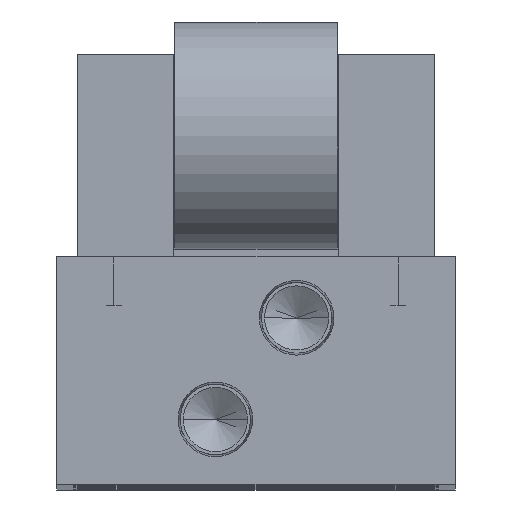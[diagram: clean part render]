
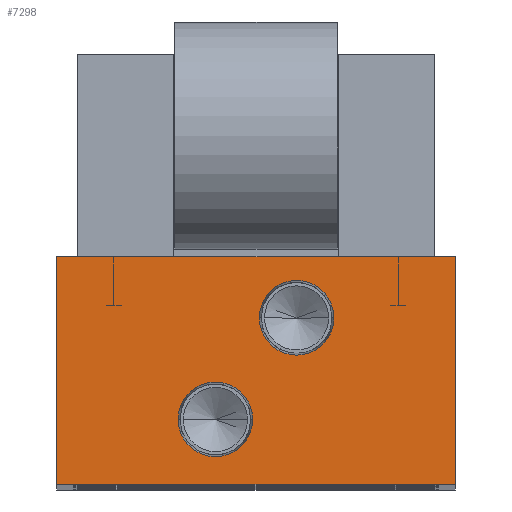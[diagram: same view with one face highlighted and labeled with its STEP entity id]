
A CAD part, top view. The second image highlights one B-rep face of the part: STEP entity #7298.
In plain terms, the highlighted planar face has unit normal (0, 0, 1).
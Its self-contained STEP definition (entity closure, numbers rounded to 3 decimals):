
#68 = CARTESIAN_POINT ( 'NONE',  ( 0.408, 20.5, 0. ) ) ;
#159 = CARTESIAN_POINT ( 'NONE',  ( -5., 8., 0. ) ) ;
#437 = EDGE_CURVE ( 'NONE', #8749, #8597, #5724, .T. ) ;
#479 = FACE_OUTER_BOUND ( 'NONE', #6086, .T. ) ;
#560 = VECTOR ( 'NONE', #4911, 1000. ) ;
#580 = CARTESIAN_POINT ( 'NONE',  ( 9.592, 20.5, 0. ) ) ;
#1047 = DIRECTION ( 'NONE',  ( 1., 0., 0. ) ) ;
#1211 = EDGE_CURVE ( 'NONE', #12919, #5067, #6840, .T. ) ;
#1378 = DIRECTION ( 'NONE',  ( 1., 0., 0. ) ) ;
#1502 = CARTESIAN_POINT ( 'NONE',  ( -24.5, 28., 0. ) ) ;
#1533 = LINE ( 'NONE', #8842, #4727 ) ;
#1572 = ORIENTED_EDGE ( 'NONE', *, *, #8475, .F. ) ;
#1715 = CARTESIAN_POINT ( 'NONE',  ( -24.5, 0., 0. ) ) ;
#2264 = DIRECTION ( 'NONE',  ( 0., 0., 1. ) ) ;
#2648 = AXIS2_PLACEMENT_3D ( 'NONE', #11758, #4476, #12985 ) ;
#2732 = EDGE_CURVE ( 'NONE', #10744, #3926, #5365, .T. ) ;
#3021 = CARTESIAN_POINT ( 'NONE',  ( 5., 20.5, 0. ) ) ;
#3442 = CIRCLE ( 'NONE', #9294, 4.592 ) ;
#3916 = LINE ( 'NONE', #1502, #6739 ) ;
#3926 = VERTEX_POINT ( 'NONE', #5896 ) ;
#4032 = CARTESIAN_POINT ( 'NONE',  ( 24.5, 28., 0. ) ) ;
#4091 = FACE_BOUND ( 'NONE', #11175, .T. ) ;
#4220 = DIRECTION ( 'NONE',  ( 1., 0., 0. ) ) ;
#4476 = DIRECTION ( 'NONE',  ( 0., 0., 1. ) ) ;
#4727 = VECTOR ( 'NONE', #14855, 1000. ) ;
#4911 = DIRECTION ( 'NONE',  ( -1., 0., 0. ) ) ;
#5067 = VERTEX_POINT ( 'NONE', #580 ) ;
#5365 = CIRCLE ( 'NONE', #8137, 4.592 ) ;
#5724 = LINE ( 'NONE', #4032, #8635 ) ;
#5896 = CARTESIAN_POINT ( 'NONE',  ( -9.592, 8., 0. ) ) ;
#5918 = ORIENTED_EDGE ( 'NONE', *, *, #2732, .F. ) ;
#5938 = ORIENTED_EDGE ( 'NONE', *, *, #6621, .T. ) ;
#6086 = EDGE_LOOP ( 'NONE', ( #5938, #11292, #10913, #6401 ) ) ;
#6349 = DIRECTION ( 'NONE',  ( 0., -1., 0. ) ) ;
#6401 = ORIENTED_EDGE ( 'NONE', *, *, #14349, .T. ) ;
#6512 = CARTESIAN_POINT ( 'NONE',  ( -0.408, 8., 0. ) ) ;
#6621 = EDGE_CURVE ( 'NONE', #11705, #10788, #3916, .T. ) ;
#6739 = VECTOR ( 'NONE', #6349, 1000. ) ;
#6840 = CIRCLE ( 'NONE', #2648, 4.592 ) ;
#6913 = FACE_BOUND ( 'NONE', #11808, .T. ) ;
#7072 = CARTESIAN_POINT ( 'NONE',  ( 0., 0., 0. ) ) ;
#7298 = ADVANCED_FACE ( 'NONE', ( #6913, #4091, #479 ), #8318, .T. ) ;
#7627 = CARTESIAN_POINT ( 'NONE',  ( 24.5, 28., 0. ) ) ;
#8137 = AXIS2_PLACEMENT_3D ( 'NONE', #9539, #2264, #10741 ) ;
#8318 = PLANE ( 'NONE',  #10776 ) ;
#8475 = EDGE_CURVE ( 'NONE', #3926, #10744, #3442, .T. ) ;
#8597 = VERTEX_POINT ( 'NONE', #7627 ) ;
#8635 = VECTOR ( 'NONE', #11316, 1000. ) ;
#8660 = DIRECTION ( 'NONE',  ( 0., 0., 1. ) ) ;
#8749 = VERTEX_POINT ( 'NONE', #11499 ) ;
#8842 = CARTESIAN_POINT ( 'NONE',  ( -24.5, 0., 0. ) ) ;
#9294 = AXIS2_PLACEMENT_3D ( 'NONE', #159, #8660, #1378 ) ;
#9405 = AXIS2_PLACEMENT_3D ( 'NONE', #3021, #11505, #4220 ) ;
#9408 = CARTESIAN_POINT ( 'NONE',  ( -24.5, 28., 0. ) ) ;
#9539 = CARTESIAN_POINT ( 'NONE',  ( -5., 8., 0. ) ) ;
#9843 = ORIENTED_EDGE ( 'NONE', *, *, #13211, .F. ) ;
#10269 = LINE ( 'NONE', #10976, #560 ) ;
#10684 = EDGE_CURVE ( 'NONE', #10788, #8749, #1533, .T. ) ;
#10704 = DIRECTION ( 'NONE',  ( 0., 0., 1. ) ) ;
#10741 = DIRECTION ( 'NONE',  ( 1., 0., 0. ) ) ;
#10744 = VERTEX_POINT ( 'NONE', #6512 ) ;
#10776 = AXIS2_PLACEMENT_3D ( 'NONE', #7072, #10704, #1047 ) ;
#10788 = VERTEX_POINT ( 'NONE', #1715 ) ;
#10913 = ORIENTED_EDGE ( 'NONE', *, *, #437, .T. ) ;
#10976 = CARTESIAN_POINT ( 'NONE',  ( -24.5, 28., 0. ) ) ;
#11175 = EDGE_LOOP ( 'NONE', ( #9843, #11899 ) ) ;
#11292 = ORIENTED_EDGE ( 'NONE', *, *, #10684, .T. ) ;
#11316 = DIRECTION ( 'NONE',  ( 0., 1., 0. ) ) ;
#11499 = CARTESIAN_POINT ( 'NONE',  ( 24.5, 0., 0. ) ) ;
#11505 = DIRECTION ( 'NONE',  ( 0., 0., 1. ) ) ;
#11705 = VERTEX_POINT ( 'NONE', #9408 ) ;
#11758 = CARTESIAN_POINT ( 'NONE',  ( 5., 20.5, 0. ) ) ;
#11808 = EDGE_LOOP ( 'NONE', ( #5918, #1572 ) ) ;
#11891 = CIRCLE ( 'NONE', #9405, 4.592 ) ;
#11899 = ORIENTED_EDGE ( 'NONE', *, *, #1211, .F. ) ;
#12919 = VERTEX_POINT ( 'NONE', #68 ) ;
#12985 = DIRECTION ( 'NONE',  ( 1., 0., 0. ) ) ;
#13211 = EDGE_CURVE ( 'NONE', #5067, #12919, #11891, .T. ) ;
#14349 = EDGE_CURVE ( 'NONE', #8597, #11705, #10269, .T. ) ;
#14855 = DIRECTION ( 'NONE',  ( 1., 0., 0. ) ) ;
